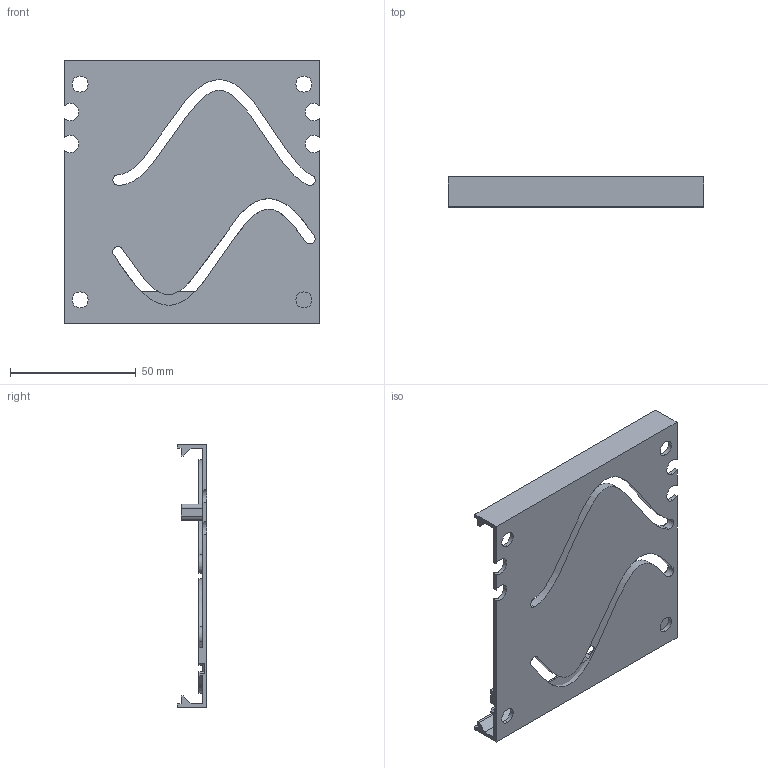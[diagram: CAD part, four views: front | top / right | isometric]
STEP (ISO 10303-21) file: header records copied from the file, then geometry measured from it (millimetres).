
FILE_DESCRIPTION (( 'STEP AP203' ), '1' );
FILE_NAME ('13 - Base Mid.STEP', '2022-11-25T05:48:06', ( '' ), ( '' ), 'SwSTEP 2.0', 'SolidWorks 2021', '' );
FILE_SCHEMA (( 'CONFIG_CONTROL_DESIGN' ));
Length unit declared in the file: inch
Products named in the file (1): 13 - Base Mid
Bounding box: 101.6 x 11.91 x 104.78 mm (x, y, z)
Volume: 23088.4 mm3; surface area: 25773.1 mm2
Topology: 1 solids, 1 shells, 111 faces, 324 edges, 212 vertices
Faces by surface type: plane 60, cylinder 36, bspline 15
Entity records: 5934 total; most frequent: CARTESIAN_POINT 2992, ORIENTED_EDGE 640, DIRECTION 536, EDGE_CURVE 320, VERTEX_POINT 210, VECTOR 198, LINE 198, AXIS2_PLACEMENT_3D 169
